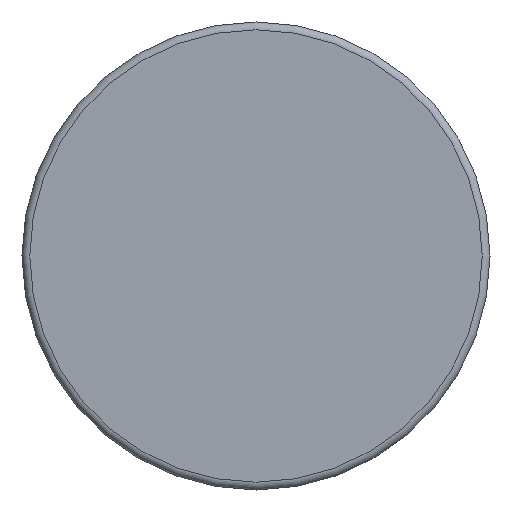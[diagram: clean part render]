
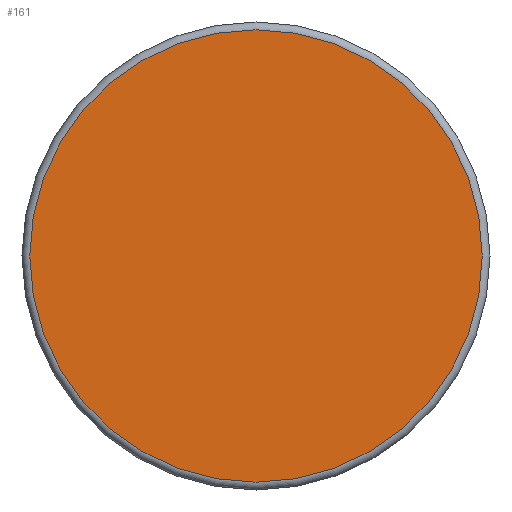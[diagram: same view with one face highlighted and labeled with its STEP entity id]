
A CAD part, front view. The second image highlights one B-rep face of the part: STEP entity #161.
In plain terms, the highlighted planar face has unit normal (0, -1, 0).
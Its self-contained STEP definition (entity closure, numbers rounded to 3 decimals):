
#161 = ADVANCED_FACE( '', ( #328 ), #329, .F. );
#328 = FACE_OUTER_BOUND( '', #528, .T. );
#329 = PLANE( '', #529 );
#528 = EDGE_LOOP( '', ( #751 ) );
#529 = AXIS2_PLACEMENT_3D( '', #752, #753, #754 );
#751 = ORIENTED_EDGE( '', *, *, #1117, .T. );
#752 = CARTESIAN_POINT( '', ( 29., 0., 0. ) );
#753 = DIRECTION( '', ( 0., 1., 0. ) );
#754 = DIRECTION( '', ( 0., 0., 1. ) );
#1117 = EDGE_CURVE( '', #1282, #1282, #1283, .T. );
#1282 = VERTEX_POINT( '', #1528 );
#1283 = CIRCLE( '', #1529, 29. );
#1528 = CARTESIAN_POINT( '', ( 0., 0., -29. ) );
#1529 = AXIS2_PLACEMENT_3D( '', #2019, #2020, #2021 );
#2019 = CARTESIAN_POINT( '', ( 0., 0., 0. ) );
#2020 = DIRECTION( '', ( 0., -1., 0. ) );
#2021 = DIRECTION( '', ( 0., 0., -1. ) );
